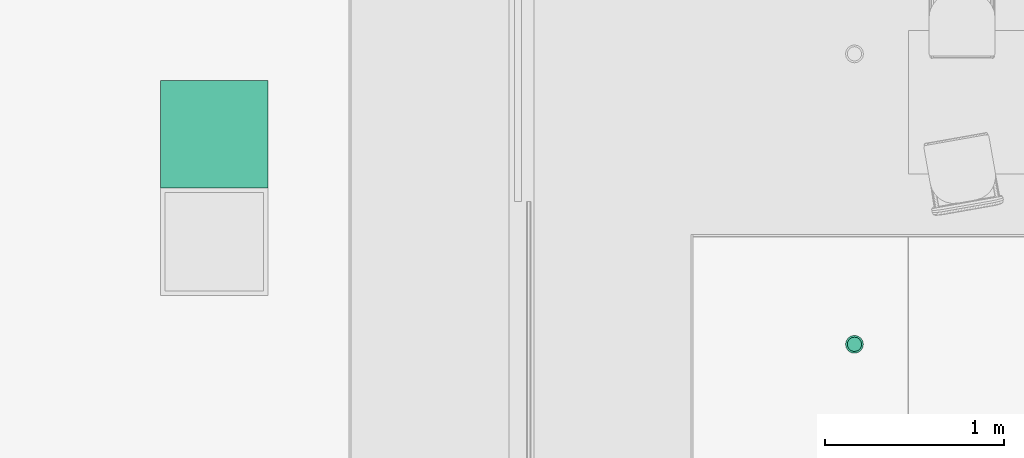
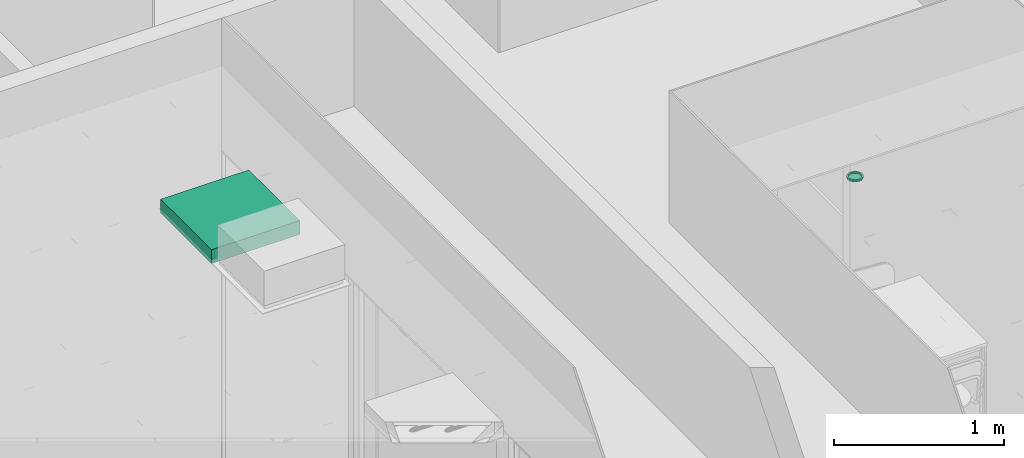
# One storey, part 221 of 347: 2 flow terminals.
"""IFC2X3 building model written with IfcOpenShell, lengths in millimetres."""

from ifc_helpers import new_model, entity, si_unit, converted_unit, derived_unit, money_unit, direction, frame, origin_with_axes, place, context, subcontext, project, spatial, open_shell, faceted_brep, surface_model, source, transform, mapped, type_object, type_shapes, element, save


model = new_model("IFC2X3")

# Units and contexts
model_context = context("Model", 3, precision=0.01, world=origin_with_axes(), true_north=direction((0.0, 1.0)))
plan_context = context("Plan", 3, precision=0.01, world=origin_with_axes(), true_north=direction((0.0, 1.0)))
body_context = subcontext(model_context, "Body", "Model", "MODEL_VIEW")
ifc_project = project(units=[si_unit("LENGTHUNIT", "METRE", prefix="MILLI"), si_unit("AREAUNIT", "SQUARE_METRE"), si_unit("VOLUMEUNIT", "CUBIC_METRE"), converted_unit("PLANEANGLEUNIT", "DEGREE", entity("IfcPlaneAngleMeasure", 0.0174532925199), si_unit("PLANEANGLEUNIT", "RADIAN"), dimensions=[0, 0, 0, 0, 0, 0, 0]), money_unit("EUR"), converted_unit("TIMEUNIT", "Year", entity("IfcTimeMeasure", 31556926.0), si_unit("TIMEUNIT", "SECOND"), dimensions=[0, 0, 1, 0, 0, 0, 0]), si_unit("MASSUNIT", "GRAM", prefix="KILO"), si_unit("THERMODYNAMICTEMPERATUREUNIT", "DEGREE_CELSIUS"), si_unit("LUMINOUSINTENSITYUNIT", "LUMEN"), si_unit("ENERGYUNIT", "JOULE", prefix="MEGA"), derived_unit("THERMALCONDUCTANCEUNIT", [(si_unit("POWERUNIT", "WATT"), 1), (si_unit("LENGTHUNIT", "METRE"), -1), (si_unit("THERMODYNAMICTEMPERATUREUNIT", "KELVIN"), -1)]), derived_unit("SPECIFICHEATCAPACITYUNIT", [(si_unit("ENERGYUNIT", "JOULE"), 1), (si_unit("MASSUNIT", "GRAM", prefix="KILO"), -1), (si_unit("THERMODYNAMICTEMPERATUREUNIT", "KELVIN"), -1)]), derived_unit("MASSDENSITYUNIT", [(si_unit("MASSUNIT", "GRAM", prefix="KILO"), 1), (si_unit("VOLUMEUNIT", "CUBIC_METRE"), -1)])], contexts=[model_context, plan_context])

# Site, building, storey
site_placement = place(None, origin_with_axes())
site = spatial("IfcSite", under=ifc_project, at=site_placement, Name="Site", CompositionType="ELEMENT")
building_placement = place(site_placement, origin_with_axes())
building = spatial("IfcBuilding", under=site, at=building_placement, Name="Naam gebouw", CompositionType="ELEMENT")
storey_placement = place(building_placement, origin_with_axes())
storey = spatial("IfcBuildingStorey", under=building, at=storey_placement, Name="begane grond", CompositionType="ELEMENT", Elevation=0.0)

# Flow terminals
lamp_type_1 = type_object("IfcLampType", Name="Spot plafond 01 25", PredefinedType="NOTDEFINED")
shared_shape_1 = source(origin_with_axes(), body_context, "Body", "SurfaceModel", [
    faceted_brep([(50.0, 0.0, -10.0), (46.1939766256, 19.1341716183, -10.0), (46.1939766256, 19.1341716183, 0.0), (50.0, 0.0, 0.0), (46.1939766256, -19.1341716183, -10.0), (35.3553390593, -35.3553390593, -10.0), (19.1341716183, -46.1939766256, -10.0), (0.0, -50.0, -10.0), (-19.1341716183, -46.1939766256, -10.0), (-35.3553390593, -35.3553390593, -10.0), (-46.1939766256, -19.1341716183, -10.0), (-50.0, 0.0, -10.0), (-46.1939766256, 19.1341716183, -10.0), (-35.3553390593, 35.3553390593, -10.0), (-19.1341716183, 46.1939766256, -10.0), (0.0, 50.0, -10.0), (19.1341716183, 46.1939766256, -10.0), (35.3553390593, 35.3553390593, -10.0), (40.0, 0.0, -10.0), (36.9551813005, 15.3073372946, -10.0), (28.2842712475, 28.2842712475, -10.0), (15.3073372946, 36.9551813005, -10.0), (0.0, 40.0, -10.0), (-15.3073372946, 36.9551813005, -10.0), (-28.2842712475, 28.2842712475, -10.0), (-36.9551813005, 15.3073372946, -10.0), (-40.0, 0.0, -10.0), (-36.9551813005, -15.3073372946, -10.0), (-28.2842712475, -28.2842712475, -10.0), (-15.3073372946, -36.9551813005, -10.0), (0.0, -40.0, -10.0), (15.3073372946, -36.9551813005, -10.0), (28.2842712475, -28.2842712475, -10.0), (36.9551813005, -15.3073372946, -10.0), (35.3553390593, 35.3553390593, 0.0), (19.1341716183, 46.1939766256, 0.0), (0.0, 50.0, 0.0), (-19.1341716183, 46.1939766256, 0.0), (-35.3553390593, 35.3553390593, 0.0), (-46.1939766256, 19.1341716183, 0.0), (-50.0, 0.0, 0.0), (-46.1939766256, -19.1341716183, 0.0), (-35.3553390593, -35.3553390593, 0.0), (-19.1341716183, -46.1939766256, 0.0), (0.0, -50.0, 0.0), (19.1341716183, -46.1939766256, 0.0), (35.3553390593, -35.3553390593, 0.0), (46.1939766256, -19.1341716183, 0.0), (40.0, 0.0, 0.0), (36.9551813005, -15.3073372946, 0.0), (28.2842712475, -28.2842712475, 0.0), (15.3073372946, -36.9551813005, 0.0), (0.0, -40.0, 0.0), (-15.3073372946, -36.9551813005, 0.0), (-28.2842712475, -28.2842712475, 0.0), (-36.9551813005, -15.3073372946, 0.0), (-40.0, 0.0, 0.0), (-36.9551813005, 15.3073372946, 0.0), (-28.2842712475, 28.2842712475, 0.0), (-15.3073372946, 36.9551813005, 0.0), (0.0, 40.0, 0.0), (15.3073372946, 36.9551813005, 0.0), (28.2842712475, 28.2842712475, 0.0), (36.9551813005, 15.3073372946, 0.0)], [[[0, 1, 2, 3]], [[0, 4, 5, 6, 7, 8, 9, 10, 11, 12, 13, 14, 15, 16, 17, 1], [18, 19, 20, 21, 22, 23, 24, 25, 26, 27, 28, 29, 30, 31, 32, 33]], [[1, 17, 34, 2]], [[3, 2, 34, 35, 36, 37, 38, 39, 40, 41, 42, 43, 44, 45, 46, 47], [48, 49, 50, 51, 52, 53, 54, 55, 56, 57, 58, 59, 60, 61, 62, 63]], [[4, 0, 3, 47]], [[5, 4, 47, 46]], [[6, 5, 46, 45]], [[7, 6, 45, 44]], [[8, 7, 44, 43]], [[9, 8, 43, 42]], [[10, 9, 42, 41]], [[11, 10, 41, 40]], [[12, 11, 40, 39]], [[13, 12, 39, 38]], [[14, 13, 38, 37]], [[15, 14, 37, 36]], [[16, 15, 36, 35]], [[17, 16, 35, 34]], [[19, 18, 48, 63]], [[20, 19, 63, 62]], [[21, 20, 62, 61]], [[22, 21, 61, 60]], [[23, 22, 60, 59]], [[24, 23, 59, 58]], [[25, 24, 58, 57]], [[26, 25, 57, 56]], [[27, 26, 56, 55]], [[28, 27, 55, 54]], [[29, 28, 54, 53]], [[30, 29, 53, 52]], [[31, 30, 52, 51]], [[32, 31, 51, 50]], [[33, 32, 50, 49]], [[18, 33, 49, 48]]]),
    surface_model("IfcShellBasedSurfaceModel", [(40.0, 0.0, -8.9), (36.9551813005, -15.3073372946, -8.9), (28.2842712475, -28.2842712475, -8.9), (15.3073372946, -36.9551813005, -8.9), (0.0, -40.0, -8.9), (-15.3073372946, -36.9551813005, -8.9), (-28.2842712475, -28.2842712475, -8.9), (-36.9551813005, -15.3073372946, -8.9), (-40.0, 0.0, -8.9), (-36.9551813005, 15.3073372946, -8.9), (-28.2842712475, 28.2842712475, -8.9), (-15.3073372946, 36.9551813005, -8.9), (0.0, 40.0, -8.9), (15.3073372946, 36.9551813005, -8.9), (28.2842712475, 28.2842712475, -8.9), (36.9551813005, 15.3073372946, -8.9)], [open_shell([[[0, 1, 2, 3, 4, 5, 6, 7, 8, 9, 10, 11, 12, 13, 14, 15]]])]),
])
type_shapes(lamp_type_1, [shared_shape_1])
flow_terminal_1_placement = place(storey_placement, frame((33995.0, 25340.0001323, 3000.0), z_axis=(0.0, 0.0, 1.0), x_axis=(1.0, 0.0, 0.0)))
element("IfcFlowTerminal", 1, at=flow_terminal_1_placement, inside=storey, type_object=lamp_type_1, Name="63_Lamp-x", ObjectType="Lamp", context=body_context, shape_type="MappedRepresentation", body=[
    mapped(shared_shape_1, transform((0.0, 0.0, 0.0))),
])
lamp_type_2 = type_object("IfcLampType", Name="TL plafond 25", PredefinedType="NOTDEFINED")
shared_shape_2 = source(origin_with_axes(), body_context, "Body", "SurfaceModel", [
    faceted_brep([(0.0, 0.0, -100.0), (600.0, 0.0, -100.0), (600.0, 0.0, 0.0), (0.0, 0.0, 0.0), (0.0, 600.0, -100.0), (600.0, 600.0, -100.0), (40.0, 40.0, -100.0), (560.0, 40.0, -100.0), (560.0, 560.0, -100.0), (40.0, 560.0, -100.0), (600.0, 600.0, 0.0), (0.0, 600.0, 0.0), (40.0, 40.0, 0.0), (40.0, 560.0, 0.0), (560.0, 560.0, 0.0), (560.0, 40.0, 0.0)], [[[0, 1, 2, 3]], [[0, 4, 5, 1], [6, 7, 8, 9]], [[1, 5, 10, 2]], [[3, 2, 10, 11], [12, 13, 14, 15]], [[4, 0, 3, 11]], [[5, 4, 11, 10]], [[7, 6, 12, 15]], [[8, 7, 15, 14]], [[9, 8, 14, 13]], [[6, 9, 13, 12]]]),
    faceted_brep([(40.0, 40.0, -16.3333333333), (560.0, 40.0, -16.3333333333), (560.0, 40.0, 0.0), (40.0, 40.0, 0.0), (40.0, 560.0, -16.3333333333), (560.0, 560.0, -16.3333333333), (560.0, 560.0, 0.0), (40.0, 560.0, 0.0)], [[[0, 1, 2, 3]], [[0, 4, 5, 1]], [[1, 5, 6, 2]], [[3, 2, 6, 7]], [[4, 0, 3, 7]], [[5, 4, 7, 6]]]),
    surface_model("IfcShellBasedSurfaceModel", [(559.0, 41.0, -100.0), (40.0, 41.0, -100.0), (40.0, 559.0, -100.0), (559.0, 559.0, -100.0)], [open_shell([[[0, 1, 2, 3]]])]),
    faceted_brep([(40.0, 40.0, -100.0), (560.0, 40.0, -100.0), (560.0, 40.0, -60.0), (40.0, 40.0, -60.0), (40.0, 560.0, -100.0), (560.0, 560.0, -100.0), (41.0, 41.0, -100.0), (559.0, 41.0, -100.0), (559.0, 559.0, -100.0), (41.0, 559.0, -100.0), (560.0, 560.0, -60.0), (40.0, 560.0, -60.0), (41.0, 41.0, -60.0), (41.0, 559.0, -60.0), (559.0, 559.0, -60.0), (559.0, 41.0, -60.0)], [[[0, 1, 2, 3]], [[0, 4, 5, 1], [6, 7, 8, 9]], [[1, 5, 10, 2]], [[3, 2, 10, 11], [12, 13, 14, 15]], [[4, 0, 3, 11]], [[5, 4, 11, 10]], [[7, 6, 12, 15]], [[8, 7, 15, 14]], [[9, 8, 14, 13]], [[6, 9, 13, 12]]]),
    faceted_brep([(40.0, 144.0, -48.3333333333), (40.0, 149.740251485, -47.191526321), (560.0, 149.740251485, -47.191526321), (560.0, 144.0, -48.3333333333), (40.0, 138.259748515, -47.191526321), (40.0, 133.393398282, -43.9399350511), (40.0, 130.141807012, -39.0735848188), (40.0, 129.0, -33.3333333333), (40.0, 130.141807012, -27.5930818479), (40.0, 133.393398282, -22.7267316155), (40.0, 138.259748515, -19.4751403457), (40.0, 144.0, -18.3333333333), (40.0, 149.740251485, -19.4751403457), (40.0, 154.606601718, -22.7267316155), (40.0, 157.858192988, -27.5930818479), (40.0, 159.0, -33.3333333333), (40.0, 157.858192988, -39.0735848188), (40.0, 154.606601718, -43.9399350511), (40.0, 144.0, -46.3333333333), (40.0, 148.974884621, -45.343767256), (40.0, 153.192388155, -42.5257214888), (40.0, 156.010433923, -38.3082179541), (40.0, 157.0, -33.3333333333), (40.0, 156.010433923, -28.3584487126), (40.0, 153.192388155, -24.1409451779), (40.0, 148.974884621, -21.3228994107), (40.0, 144.0, -20.3333333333), (40.0, 139.025115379, -21.3228994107), (40.0, 134.807611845, -24.1409451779), (40.0, 131.989566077, -28.3584487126), (40.0, 131.0, -33.3333333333), (40.0, 131.989566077, -38.3082179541), (40.0, 134.807611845, -42.5257214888), (40.0, 139.025115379, -45.343767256), (560.0, 154.606601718, -43.9399350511), (560.0, 157.858192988, -39.0735848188), (560.0, 159.0, -33.3333333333), (560.0, 157.858192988, -27.5930818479), (560.0, 154.606601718, -22.7267316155), (560.0, 149.740251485, -19.4751403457), (560.0, 144.0, -18.3333333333), (560.0, 138.259748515, -19.4751403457), (560.0, 133.393398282, -22.7267316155), (560.0, 130.141807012, -27.5930818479), (560.0, 129.0, -33.3333333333), (560.0, 130.141807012, -39.0735848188), (560.0, 133.393398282, -43.9399350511), (560.0, 138.259748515, -47.191526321), (560.0, 144.0, -46.3333333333), (560.0, 139.025115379, -45.343767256), (560.0, 134.807611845, -42.5257214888), (560.0, 131.989566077, -38.3082179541), (560.0, 131.0, -33.3333333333), (560.0, 131.989566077, -28.3584487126), (560.0, 134.807611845, -24.1409451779), (560.0, 139.025115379, -21.3228994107), (560.0, 144.0, -20.3333333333), (560.0, 148.974884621, -21.3228994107), (560.0, 153.192388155, -24.1409451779), (560.0, 156.010433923, -28.3584487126), (560.0, 157.0, -33.3333333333), (560.0, 156.010433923, -38.3082179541), (560.0, 153.192388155, -42.5257214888), (560.0, 148.974884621, -45.343767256)], [[[0, 1, 2, 3]], [[0, 4, 5, 6, 7, 8, 9, 10, 11, 12, 13, 14, 15, 16, 17, 1], [18, 19, 20, 21, 22, 23, 24, 25, 26, 27, 28, 29, 30, 31, 32, 33]], [[1, 17, 34, 2]], [[3, 2, 34, 35, 36, 37, 38, 39, 40, 41, 42, 43, 44, 45, 46, 47], [48, 49, 50, 51, 52, 53, 54, 55, 56, 57, 58, 59, 60, 61, 62, 63]], [[4, 0, 3, 47]], [[5, 4, 47, 46]], [[6, 5, 46, 45]], [[7, 6, 45, 44]], [[8, 7, 44, 43]], [[9, 8, 43, 42]], [[10, 9, 42, 41]], [[11, 10, 41, 40]], [[12, 11, 40, 39]], [[13, 12, 39, 38]], [[14, 13, 38, 37]], [[15, 14, 37, 36]], [[16, 15, 36, 35]], [[17, 16, 35, 34]], [[19, 18, 48, 63]], [[20, 19, 63, 62]], [[21, 20, 62, 61]], [[22, 21, 61, 60]], [[23, 22, 60, 59]], [[24, 23, 59, 58]], [[25, 24, 58, 57]], [[26, 25, 57, 56]], [[27, 26, 56, 55]], [[28, 27, 55, 54]], [[29, 28, 54, 53]], [[30, 29, 53, 52]], [[31, 30, 52, 51]], [[32, 31, 51, 50]], [[33, 32, 50, 49]], [[18, 33, 49, 48]]]),
    faceted_brep([(40.0, 248.0, -48.3333333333), (40.0, 253.740251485, -47.191526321), (560.0, 253.740251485, -47.191526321), (560.0, 248.0, -48.3333333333), (40.0, 242.259748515, -47.191526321), (40.0, 237.393398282, -43.9399350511), (40.0, 234.141807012, -39.0735848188), (40.0, 233.0, -33.3333333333), (40.0, 234.141807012, -27.5930818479), (40.0, 237.393398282, -22.7267316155), (40.0, 242.259748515, -19.4751403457), (40.0, 248.0, -18.3333333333), (40.0, 253.740251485, -19.4751403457), (40.0, 258.606601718, -22.7267316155), (40.0, 261.858192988, -27.5930818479), (40.0, 263.0, -33.3333333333), (40.0, 261.858192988, -39.0735848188), (40.0, 258.606601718, -43.9399350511), (40.0, 248.0, -46.3333333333), (40.0, 252.974884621, -45.343767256), (40.0, 257.192388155, -42.5257214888), (40.0, 260.010433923, -38.3082179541), (40.0, 261.0, -33.3333333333), (40.0, 260.010433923, -28.3584487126), (40.0, 257.192388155, -24.1409451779), (40.0, 252.974884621, -21.3228994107), (40.0, 248.0, -20.3333333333), (40.0, 243.025115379, -21.3228994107), (40.0, 238.807611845, -24.1409451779), (40.0, 235.989566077, -28.3584487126), (40.0, 235.0, -33.3333333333), (40.0, 235.989566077, -38.3082179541), (40.0, 238.807611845, -42.5257214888), (40.0, 243.025115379, -45.343767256), (560.0, 258.606601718, -43.9399350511), (560.0, 261.858192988, -39.0735848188), (560.0, 263.0, -33.3333333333), (560.0, 261.858192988, -27.5930818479), (560.0, 258.606601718, -22.7267316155), (560.0, 253.740251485, -19.4751403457), (560.0, 248.0, -18.3333333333), (560.0, 242.259748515, -19.4751403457), (560.0, 237.393398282, -22.7267316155), (560.0, 234.141807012, -27.5930818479), (560.0, 233.0, -33.3333333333), (560.0, 234.141807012, -39.0735848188), (560.0, 237.393398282, -43.9399350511), (560.0, 242.259748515, -47.191526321), (560.0, 248.0, -46.3333333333), (560.0, 243.025115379, -45.343767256), (560.0, 238.807611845, -42.5257214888), (560.0, 235.989566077, -38.3082179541), (560.0, 235.0, -33.3333333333), (560.0, 235.989566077, -28.3584487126), (560.0, 238.807611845, -24.1409451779), (560.0, 243.025115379, -21.3228994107), (560.0, 248.0, -20.3333333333), (560.0, 252.974884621, -21.3228994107), (560.0, 257.192388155, -24.1409451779), (560.0, 260.010433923, -28.3584487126), (560.0, 261.0, -33.3333333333), (560.0, 260.010433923, -38.3082179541), (560.0, 257.192388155, -42.5257214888), (560.0, 252.974884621, -45.343767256)], [[[0, 1, 2, 3]], [[0, 4, 5, 6, 7, 8, 9, 10, 11, 12, 13, 14, 15, 16, 17, 1], [18, 19, 20, 21, 22, 23, 24, 25, 26, 27, 28, 29, 30, 31, 32, 33]], [[1, 17, 34, 2]], [[3, 2, 34, 35, 36, 37, 38, 39, 40, 41, 42, 43, 44, 45, 46, 47], [48, 49, 50, 51, 52, 53, 54, 55, 56, 57, 58, 59, 60, 61, 62, 63]], [[4, 0, 3, 47]], [[5, 4, 47, 46]], [[6, 5, 46, 45]], [[7, 6, 45, 44]], [[8, 7, 44, 43]], [[9, 8, 43, 42]], [[10, 9, 42, 41]], [[11, 10, 41, 40]], [[12, 11, 40, 39]], [[13, 12, 39, 38]], [[14, 13, 38, 37]], [[15, 14, 37, 36]], [[16, 15, 36, 35]], [[17, 16, 35, 34]], [[19, 18, 48, 63]], [[20, 19, 63, 62]], [[21, 20, 62, 61]], [[22, 21, 61, 60]], [[23, 22, 60, 59]], [[24, 23, 59, 58]], [[25, 24, 58, 57]], [[26, 25, 57, 56]], [[27, 26, 56, 55]], [[28, 27, 55, 54]], [[29, 28, 54, 53]], [[30, 29, 53, 52]], [[31, 30, 52, 51]], [[32, 31, 51, 50]], [[33, 32, 50, 49]], [[18, 33, 49, 48]]]),
    faceted_brep([(40.0, 352.0, -48.3333333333), (40.0, 357.740251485, -47.191526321), (560.0, 357.740251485, -47.191526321), (560.0, 352.0, -48.3333333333), (40.0, 346.259748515, -47.191526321), (40.0, 341.393398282, -43.9399350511), (40.0, 338.141807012, -39.0735848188), (40.0, 337.0, -33.3333333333), (40.0, 338.141807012, -27.5930818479), (40.0, 341.393398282, -22.7267316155), (40.0, 346.259748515, -19.4751403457), (40.0, 352.0, -18.3333333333), (40.0, 357.740251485, -19.4751403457), (40.0, 362.606601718, -22.7267316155), (40.0, 365.858192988, -27.5930818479), (40.0, 367.0, -33.3333333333), (40.0, 365.858192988, -39.0735848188), (40.0, 362.606601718, -43.9399350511), (40.0, 352.0, -46.3333333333), (40.0, 356.974884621, -45.343767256), (40.0, 361.192388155, -42.5257214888), (40.0, 364.010433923, -38.3082179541), (40.0, 365.0, -33.3333333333), (40.0, 364.010433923, -28.3584487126), (40.0, 361.192388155, -24.1409451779), (40.0, 356.974884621, -21.3228994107), (40.0, 352.0, -20.3333333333), (40.0, 347.025115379, -21.3228994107), (40.0, 342.807611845, -24.1409451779), (40.0, 339.989566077, -28.3584487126), (40.0, 339.0, -33.3333333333), (40.0, 339.989566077, -38.3082179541), (40.0, 342.807611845, -42.5257214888), (40.0, 347.025115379, -45.343767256), (560.0, 362.606601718, -43.9399350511), (560.0, 365.858192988, -39.0735848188), (560.0, 367.0, -33.3333333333), (560.0, 365.858192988, -27.5930818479), (560.0, 362.606601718, -22.7267316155), (560.0, 357.740251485, -19.4751403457), (560.0, 352.0, -18.3333333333), (560.0, 346.259748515, -19.4751403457), (560.0, 341.393398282, -22.7267316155), (560.0, 338.141807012, -27.5930818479), (560.0, 337.0, -33.3333333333), (560.0, 338.141807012, -39.0735848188), (560.0, 341.393398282, -43.9399350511), (560.0, 346.259748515, -47.191526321), (560.0, 352.0, -46.3333333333), (560.0, 347.025115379, -45.343767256), (560.0, 342.807611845, -42.5257214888), (560.0, 339.989566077, -38.3082179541), (560.0, 339.0, -33.3333333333), (560.0, 339.989566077, -28.3584487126), (560.0, 342.807611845, -24.1409451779), (560.0, 347.025115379, -21.3228994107), (560.0, 352.0, -20.3333333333), (560.0, 356.974884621, -21.3228994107), (560.0, 361.192388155, -24.1409451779), (560.0, 364.010433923, -28.3584487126), (560.0, 365.0, -33.3333333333), (560.0, 364.010433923, -38.3082179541), (560.0, 361.192388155, -42.5257214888), (560.0, 356.974884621, -45.343767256)], [[[0, 1, 2, 3]], [[0, 4, 5, 6, 7, 8, 9, 10, 11, 12, 13, 14, 15, 16, 17, 1], [18, 19, 20, 21, 22, 23, 24, 25, 26, 27, 28, 29, 30, 31, 32, 33]], [[1, 17, 34, 2]], [[3, 2, 34, 35, 36, 37, 38, 39, 40, 41, 42, 43, 44, 45, 46, 47], [48, 49, 50, 51, 52, 53, 54, 55, 56, 57, 58, 59, 60, 61, 62, 63]], [[4, 0, 3, 47]], [[5, 4, 47, 46]], [[6, 5, 46, 45]], [[7, 6, 45, 44]], [[8, 7, 44, 43]], [[9, 8, 43, 42]], [[10, 9, 42, 41]], [[11, 10, 41, 40]], [[12, 11, 40, 39]], [[13, 12, 39, 38]], [[14, 13, 38, 37]], [[15, 14, 37, 36]], [[16, 15, 36, 35]], [[17, 16, 35, 34]], [[19, 18, 48, 63]], [[20, 19, 63, 62]], [[21, 20, 62, 61]], [[22, 21, 61, 60]], [[23, 22, 60, 59]], [[24, 23, 59, 58]], [[25, 24, 58, 57]], [[26, 25, 57, 56]], [[27, 26, 56, 55]], [[28, 27, 55, 54]], [[29, 28, 54, 53]], [[30, 29, 53, 52]], [[31, 30, 52, 51]], [[32, 31, 51, 50]], [[33, 32, 50, 49]], [[18, 33, 49, 48]]]),
    faceted_brep([(40.0, 456.0, -48.3333333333), (40.0, 461.740251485, -47.191526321), (560.0, 461.740251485, -47.191526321), (560.0, 456.0, -48.3333333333), (40.0, 450.259748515, -47.191526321), (40.0, 445.393398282, -43.9399350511), (40.0, 442.141807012, -39.0735848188), (40.0, 441.0, -33.3333333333), (40.0, 442.141807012, -27.5930818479), (40.0, 445.393398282, -22.7267316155), (40.0, 450.259748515, -19.4751403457), (40.0, 456.0, -18.3333333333), (40.0, 461.740251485, -19.4751403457), (40.0, 466.606601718, -22.7267316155), (40.0, 469.858192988, -27.5930818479), (40.0, 471.0, -33.3333333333), (40.0, 469.858192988, -39.0735848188), (40.0, 466.606601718, -43.9399350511), (40.0, 456.0, -46.3333333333), (40.0, 460.974884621, -45.343767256), (40.0, 465.192388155, -42.5257214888), (40.0, 468.010433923, -38.3082179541), (40.0, 469.0, -33.3333333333), (40.0, 468.010433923, -28.3584487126), (40.0, 465.192388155, -24.1409451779), (40.0, 460.974884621, -21.3228994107), (40.0, 456.0, -20.3333333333), (40.0, 451.025115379, -21.3228994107), (40.0, 446.807611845, -24.1409451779), (40.0, 443.989566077, -28.3584487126), (40.0, 443.0, -33.3333333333), (40.0, 443.989566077, -38.3082179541), (40.0, 446.807611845, -42.5257214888), (40.0, 451.025115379, -45.343767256), (560.0, 466.606601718, -43.9399350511), (560.0, 469.858192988, -39.0735848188), (560.0, 471.0, -33.3333333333), (560.0, 469.858192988, -27.5930818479), (560.0, 466.606601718, -22.7267316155), (560.0, 461.740251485, -19.4751403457), (560.0, 456.0, -18.3333333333), (560.0, 450.259748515, -19.4751403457), (560.0, 445.393398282, -22.7267316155), (560.0, 442.141807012, -27.5930818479), (560.0, 441.0, -33.3333333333), (560.0, 442.141807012, -39.0735848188), (560.0, 445.393398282, -43.9399350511), (560.0, 450.259748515, -47.191526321), (560.0, 456.0, -46.3333333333), (560.0, 451.025115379, -45.343767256), (560.0, 446.807611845, -42.5257214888), (560.0, 443.989566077, -38.3082179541), (560.0, 443.0, -33.3333333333), (560.0, 443.989566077, -28.3584487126), (560.0, 446.807611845, -24.1409451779), (560.0, 451.025115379, -21.3228994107), (560.0, 456.0, -20.3333333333), (560.0, 460.974884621, -21.3228994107), (560.0, 465.192388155, -24.1409451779), (560.0, 468.010433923, -28.3584487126), (560.0, 469.0, -33.3333333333), (560.0, 468.010433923, -38.3082179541), (560.0, 465.192388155, -42.5257214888), (560.0, 460.974884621, -45.343767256)], [[[0, 1, 2, 3]], [[0, 4, 5, 6, 7, 8, 9, 10, 11, 12, 13, 14, 15, 16, 17, 1], [18, 19, 20, 21, 22, 23, 24, 25, 26, 27, 28, 29, 30, 31, 32, 33]], [[1, 17, 34, 2]], [[3, 2, 34, 35, 36, 37, 38, 39, 40, 41, 42, 43, 44, 45, 46, 47], [48, 49, 50, 51, 52, 53, 54, 55, 56, 57, 58, 59, 60, 61, 62, 63]], [[4, 0, 3, 47]], [[5, 4, 47, 46]], [[6, 5, 46, 45]], [[7, 6, 45, 44]], [[8, 7, 44, 43]], [[9, 8, 43, 42]], [[10, 9, 42, 41]], [[11, 10, 41, 40]], [[12, 11, 40, 39]], [[13, 12, 39, 38]], [[14, 13, 38, 37]], [[15, 14, 37, 36]], [[16, 15, 36, 35]], [[17, 16, 35, 34]], [[19, 18, 48, 63]], [[20, 19, 63, 62]], [[21, 20, 62, 61]], [[22, 21, 61, 60]], [[23, 22, 60, 59]], [[24, 23, 59, 58]], [[25, 24, 58, 57]], [[26, 25, 57, 56]], [[27, 26, 56, 55]], [[28, 27, 55, 54]], [[29, 28, 54, 53]], [[30, 29, 53, 52]], [[31, 30, 52, 51]], [[32, 31, 51, 50]], [[33, 32, 50, 49]], [[18, 33, 49, 48]]]),
])
type_shapes(lamp_type_2, [shared_shape_2])
flow_terminal_2_placement = place(storey_placement, frame((30125.0, 26212.5, 3295.0), z_axis=(0.0, 0.0, 1.0), x_axis=(1.0, 0.0, 0.0)))
element("IfcFlowTerminal", 2, at=flow_terminal_2_placement, inside=storey, type_object=lamp_type_2, Name="63_Lamp-x", ObjectType="Lamp", context=body_context, shape_type="MappedRepresentation", body=[
    mapped(shared_shape_2, transform((0.0, 0.0, 0.0))),
])

save(model, "model.ifc")
